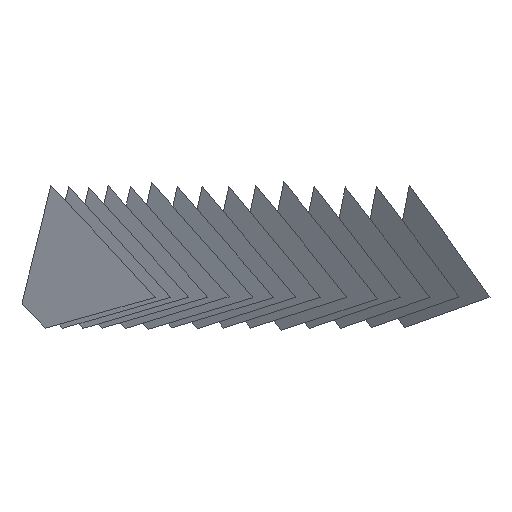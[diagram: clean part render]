
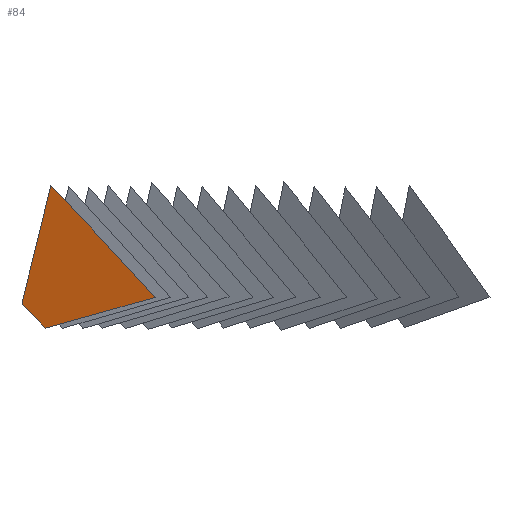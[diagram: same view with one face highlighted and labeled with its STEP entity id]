
A CAD part, front view. The second image highlights one B-rep face of the part: STEP entity #84.
In plain terms, the highlighted free-form (B-spline) face has degree [1, 1] with [2, 2] control points.
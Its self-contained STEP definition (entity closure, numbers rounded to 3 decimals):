
#84 = ADVANCED_FACE('',(#85),#98,.T.);
#85 = FACE_BOUND('',#86,.T.);
#86 = EDGE_LOOP('',(#87,#108,#122,#136,#150));
#87 = ORIENTED_EDGE('',*,*,#88,.T.);
#88 = EDGE_CURVE('',#89,#91,#93,.T.);
#89 = VERTEX_POINT('',#90);
#90 = CARTESIAN_POINT('',(11.116,34.073,
    13.398));
#91 = VERTEX_POINT('',#92);
#92 = CARTESIAN_POINT('',(9.823,34.569,14.78)
  );
#93 = SURFACE_CURVE('',#94,(#97),.PCURVE_S1.);
#94 = B_SPLINE_CURVE_WITH_KNOTS('',1,(#95,#96),.UNSPECIFIED.,.F.,.F.,(2,
    2),(0.,1.956),.PIECEWISE_BEZIER_KNOTS.);
#95 = CARTESIAN_POINT('',(11.116,34.073,
    13.398));
#96 = CARTESIAN_POINT('',(9.823,34.569,14.78)
  );
#97 = PCURVE('',#98,#103);
#98 = B_SPLINE_SURFACE_WITH_KNOTS('',1,1,(
    (#99,#100)
    ,(#101,#102
    )),.UNSPECIFIED.,.F.,.F.,.F.,(2,2),(2,2),(-3.334,
    4.575),(-3.33,4.573),
  .PIECEWISE_BEZIER_KNOTS.);
#99 = CARTESIAN_POINT('',(9.822,34.569,13.399
    ));
#100 = CARTESIAN_POINT('',(17.202,31.739,13.393
    ));
#101 = CARTESIAN_POINT('',(9.828,34.569,
    21.307));
#102 = CARTESIAN_POINT('',(17.208,31.739,
    21.302));
#103 = DEFINITIONAL_REPRESENTATION('',(#104),#107);
#104 = B_SPLINE_CURVE_WITH_KNOTS('',1,(#105,#106),.UNSPECIFIED.,.F.,.F.,
  (2,2),(0.,1.956),.PIECEWISE_BEZIER_KNOTS.);
#105 = CARTESIAN_POINT('',(-3.334,-1.945));
#106 = CARTESIAN_POINT('',(-1.952,-3.33));
#107 = ( GEOMETRIC_REPRESENTATION_CONTEXT(2) 
PARAMETRIC_REPRESENTATION_CONTEXT() REPRESENTATION_CONTEXT('2D SPACE',''
  ) );
#108 = ORIENTED_EDGE('',*,*,#109,.T.);
#109 = EDGE_CURVE('',#91,#110,#112,.T.);
#110 = VERTEX_POINT('',#111);
#111 = CARTESIAN_POINT('',(11.425,33.956,
    21.306));
#112 = SURFACE_CURVE('',#113,(#116),.PCURVE_S1.);
#113 = B_SPLINE_CURVE_WITH_KNOTS('',1,(#114,#115),.UNSPECIFIED.,.F.,.F.,
  (2,2),(0.,6.747),.PIECEWISE_BEZIER_KNOTS.);
#114 = CARTESIAN_POINT('',(9.823,34.569,14.78
    ));
#115 = CARTESIAN_POINT('',(11.425,33.956,
    21.306));
#116 = PCURVE('',#98,#117);
#117 = DEFINITIONAL_REPRESENTATION('',(#118),#121);
#118 = B_SPLINE_CURVE_WITH_KNOTS('',1,(#119,#120),.UNSPECIFIED.,.F.,.F.,
  (2,2),(0.,6.747),.PIECEWISE_BEZIER_KNOTS.);
#119 = CARTESIAN_POINT('',(-1.952,-3.33));
#120 = CARTESIAN_POINT('',(4.575,-1.62));
#121 = ( GEOMETRIC_REPRESENTATION_CONTEXT(2) 
PARAMETRIC_REPRESENTATION_CONTEXT() REPRESENTATION_CONTEXT('2D SPACE',''
  ) );
#122 = ORIENTED_EDGE('',*,*,#123,.T.);
#123 = EDGE_CURVE('',#110,#124,#126,.T.);
#124 = VERTEX_POINT('',#125);
#125 = CARTESIAN_POINT('',(14.076,32.939,
    18.495));
#126 = SURFACE_CURVE('',#127,(#130),.PCURVE_S1.);
#127 = B_SPLINE_CURVE_WITH_KNOTS('',1,(#128,#129),.UNSPECIFIED.,.F.,.F.,
  (2,2),(0.,3.995),.PIECEWISE_BEZIER_KNOTS.);
#128 = CARTESIAN_POINT('',(11.425,33.956,
    21.306));
#129 = CARTESIAN_POINT('',(14.076,32.939,
    18.495));
#130 = PCURVE('',#98,#131);
#131 = DEFINITIONAL_REPRESENTATION('',(#132),#135);
#132 = B_SPLINE_CURVE_WITH_KNOTS('',1,(#133,#134),.UNSPECIFIED.,.F.,.F.,
  (2,2),(0.,3.995),.PIECEWISE_BEZIER_KNOTS.);
#133 = CARTESIAN_POINT('',(4.575,-1.62));
#134 = CARTESIAN_POINT('',(1.766,1.221));
#135 = ( GEOMETRIC_REPRESENTATION_CONTEXT(2) 
PARAMETRIC_REPRESENTATION_CONTEXT() REPRESENTATION_CONTEXT('2D SPACE',''
  ) );
#136 = ORIENTED_EDGE('',*,*,#137,.T.);
#137 = EDGE_CURVE('',#124,#138,#140,.T.);
#138 = VERTEX_POINT('',#139);
#139 = CARTESIAN_POINT('',(17.203,31.739,
    15.107));
#140 = SURFACE_CURVE('',#141,(#144),.PCURVE_S1.);
#141 = B_SPLINE_CURVE_WITH_KNOTS('',1,(#142,#143),.UNSPECIFIED.,.F.,.F.,
  (2,2),(0.,4.765),.PIECEWISE_BEZIER_KNOTS.);
#142 = CARTESIAN_POINT('',(14.076,32.939,
    18.495));
#143 = CARTESIAN_POINT('',(17.203,31.739,
    15.107));
#144 = PCURVE('',#98,#145);
#145 = DEFINITIONAL_REPRESENTATION('',(#146),#149);
#146 = B_SPLINE_CURVE_WITH_KNOTS('',1,(#147,#148),.UNSPECIFIED.,.F.,.F.,
  (2,2),(0.,4.765),.PIECEWISE_BEZIER_KNOTS.);
#147 = CARTESIAN_POINT('',(1.766,1.221));
#148 = CARTESIAN_POINT('',(-1.62,4.573));
#149 = ( GEOMETRIC_REPRESENTATION_CONTEXT(2) 
PARAMETRIC_REPRESENTATION_CONTEXT() REPRESENTATION_CONTEXT('2D SPACE',''
  ) );
#150 = ORIENTED_EDGE('',*,*,#151,.T.);
#151 = EDGE_CURVE('',#138,#89,#152,.T.);
#152 = SURFACE_CURVE('',#153,(#156),.PCURVE_S1.);
#153 = B_SPLINE_CURVE_WITH_KNOTS('',1,(#154,#155),.UNSPECIFIED.,.F.,.F.,
  (2,2),(0.,6.74),.PIECEWISE_BEZIER_KNOTS.);
#154 = CARTESIAN_POINT('',(17.203,31.739,
    15.107));
#155 = CARTESIAN_POINT('',(11.116,34.073,
    13.398));
#156 = PCURVE('',#98,#157);
#157 = DEFINITIONAL_REPRESENTATION('',(#158),#161);
#158 = B_SPLINE_CURVE_WITH_KNOTS('',1,(#159,#160),.UNSPECIFIED.,.F.,.F.,
  (2,2),(0.,6.74),.PIECEWISE_BEZIER_KNOTS.);
#159 = CARTESIAN_POINT('',(-1.62,4.573));
#160 = CARTESIAN_POINT('',(-3.334,-1.945));
#161 = ( GEOMETRIC_REPRESENTATION_CONTEXT(2) 
PARAMETRIC_REPRESENTATION_CONTEXT() REPRESENTATION_CONTEXT('2D SPACE',''
  ) );
